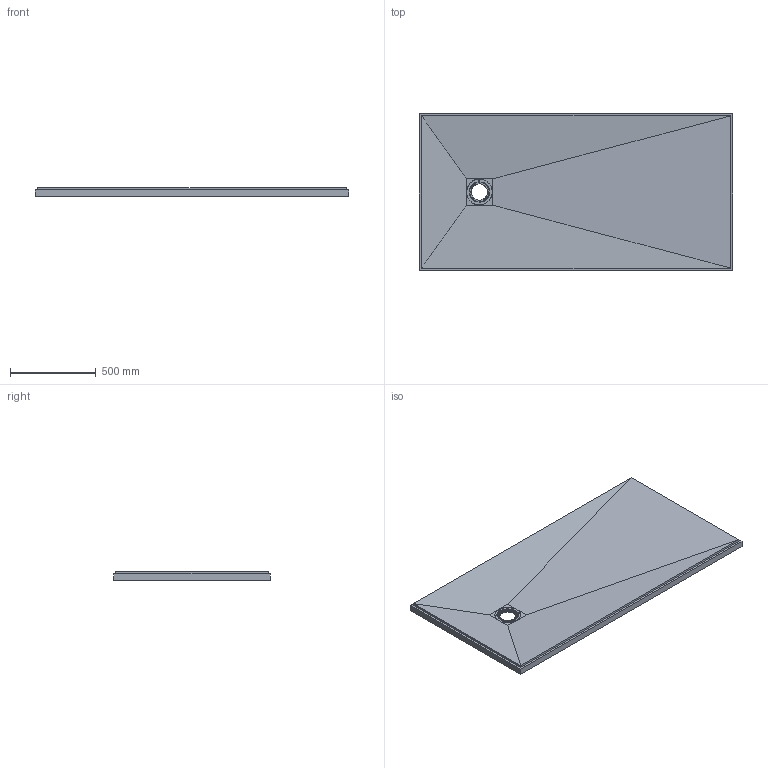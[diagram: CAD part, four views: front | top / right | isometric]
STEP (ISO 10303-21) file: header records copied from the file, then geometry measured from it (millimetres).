
FILE_DESCRIPTION(/* description */ ('Fertigteil'),/* implementation_level */ '2;1');
FILE_NAME(/* name */ 'C:\Users\fuser-vault-job\AppData\Local\Temp\MuM_ysahmsd1.ygd\D-000000893.iam_.step',/* time_stamp */ '2022-07-14T09:40:35+02:00',/* author */ ('ds'),/* organization */ (''),/* preprocessor_version */ 'ST-DEVELOPER v18.1',/* originating_system */ 'Autodesk Inventor 2020',/* authorisation */ '');
FILE_SCHEMA (('AUTOMOTIVE_DESIGN { 1 0 10303 214 3 1 1 }'));
Products named in the file (3): 073740058; 073740058_1; DD0000003
Assembly tree (2 placements, depth 2):
  073740058
    073740058_1
    DD0000003
Bounding box: 1828.8 x 914.4 x 50 mm (x, y, z)
Volume: 65700416.7 mm3; surface area: 3645525.3 mm2
Topology: 2 solids, 2 shells, 742 faces, 2189 edges, 1476 vertices
Faces by surface type: bspline 372, torus 115, cone 78, cylinder 76, plane 67, sphere 34
Full cylindrical faces by diameter (mm): 6 x3, 151 x1
Entity records: 63114 total; most frequent: CARTESIAN_POINT 44889, ORIENTED_EDGE 4314, DIRECTION 3295, EDGE_CURVE 2157, VERTEX_POINT 1452, AXIS2_PLACEMENT_3D 1339, CIRCLE 814, EDGE_LOOP 801
